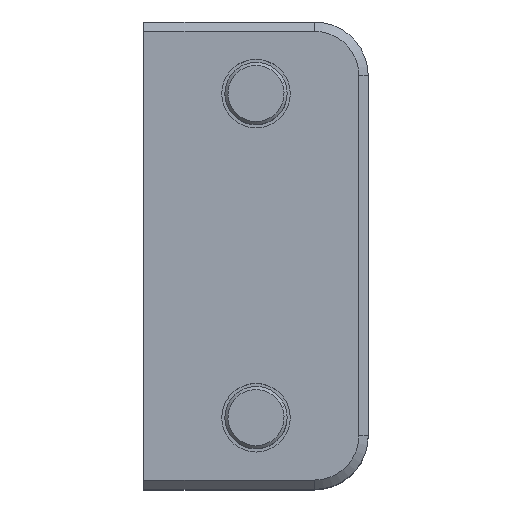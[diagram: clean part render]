
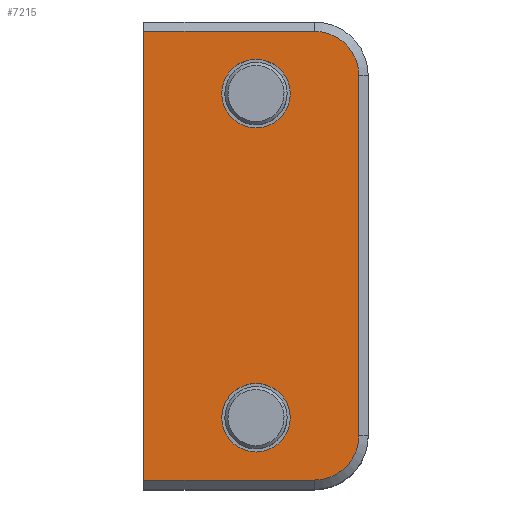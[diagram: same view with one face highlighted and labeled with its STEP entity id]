
A CAD part, top view. The second image highlights one B-rep face of the part: STEP entity #7215.
In plain terms, the highlighted planar face has unit normal (0, 0, 1).
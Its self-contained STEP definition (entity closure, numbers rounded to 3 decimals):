
#100 = CARTESIAN_POINT ( 'NONE',  ( 0., 31.5, 20. ) ) ;
#174 = EDGE_LOOP ( 'NONE', ( #9053, #1426, #10487, #4173, #8545, #5296 ) ) ;
#234 = EDGE_LOOP ( 'NONE', ( #5438, #7120 ) ) ;
#267 = EDGE_CURVE ( 'NONE', #6759, #2711, #2115, .T. ) ;
#456 = FACE_BOUND ( 'NONE', #718, .T. ) ;
#555 = AXIS2_PLACEMENT_3D ( 'NONE', #3972, #4197, #10540 ) ;
#704 = DIRECTION ( 'NONE',  ( 0., 0., -1. ) ) ;
#718 = EDGE_LOOP ( 'NONE', ( #8166, #2763 ) ) ;
#819 = AXIS2_PLACEMENT_3D ( 'NONE', #6323, #7170, #1608 ) ;
#873 = LINE ( 'NONE', #8476, #1244 ) ;
#904 = EDGE_CURVE ( 'NONE', #2252, #5194, #3669, .T. ) ;
#1244 = VECTOR ( 'NONE', #3474, 1000. ) ;
#1400 = DIRECTION ( 'NONE',  ( -1., 0., 0. ) ) ;
#1426 = ORIENTED_EDGE ( 'NONE', *, *, #8239, .T. ) ;
#1608 = DIRECTION ( 'NONE',  ( 0., 1., 0. ) ) ;
#1633 = DIRECTION ( 'NONE',  ( 0., -1., 0. ) ) ;
#1644 = CIRCLE ( 'NONE', #6344, 5.5 ) ;
#1662 = VERTEX_POINT ( 'NONE', #1829 ) ;
#1693 = CARTESIAN_POINT ( 'NONE',  ( 9.4, 28.9, 20. ) ) ;
#1829 = CARTESIAN_POINT ( 'NONE',  ( -18., 36., 20. ) ) ;
#2115 = CIRCLE ( 'NONE', #5670, 5.5 ) ;
#2252 = VERTEX_POINT ( 'NONE', #2740 ) ;
#2412 = VECTOR ( 'NONE', #9555, 1000. ) ;
#2446 = EDGE_CURVE ( 'NONE', #5194, #2252, #8381, .T. ) ;
#2539 = LINE ( 'NONE', #8794, #2412 ) ;
#2547 = CARTESIAN_POINT ( 'NONE',  ( 0., -26., 20. ) ) ;
#2711 = VERTEX_POINT ( 'NONE', #9351 ) ;
#2740 = CARTESIAN_POINT ( 'NONE',  ( 0., 20.5, 20. ) ) ;
#2763 = ORIENTED_EDGE ( 'NONE', *, *, #7724, .T. ) ;
#2955 = VERTEX_POINT ( 'NONE', #7272 ) ;
#2958 = CARTESIAN_POINT ( 'NONE',  ( 9.4, -28.9, 20. ) ) ;
#3004 = DIRECTION ( 'NONE',  ( 0., 0., 1. ) ) ;
#3474 = DIRECTION ( 'NONE',  ( 0., 1., 0. ) ) ;
#3669 = CIRCLE ( 'NONE', #555, 5.5 ) ;
#3694 = CARTESIAN_POINT ( 'NONE',  ( -18., -36., 20. ) ) ;
#3971 = FACE_BOUND ( 'NONE', #234, .T. ) ;
#3972 = CARTESIAN_POINT ( 'NONE',  ( 0., 26., 20. ) ) ;
#4120 = DIRECTION ( 'NONE',  ( -1., 0., 0. ) ) ;
#4173 = ORIENTED_EDGE ( 'NONE', *, *, #8559, .T. ) ;
#4197 = DIRECTION ( 'NONE',  ( 0., 0., -1. ) ) ;
#4324 = CARTESIAN_POINT ( 'NONE',  ( 16.5, -28.9, 20. ) ) ;
#4360 = AXIS2_PLACEMENT_3D ( 'NONE', #1693, #10000, #4120 ) ;
#4784 = DIRECTION ( 'NONE',  ( 0., 1., 0. ) ) ;
#4794 = VECTOR ( 'NONE', #1633, 1000. ) ;
#4860 = VECTOR ( 'NONE', #6564, 1000. ) ;
#5142 = DIRECTION ( 'NONE',  ( 0., 0., -1. ) ) ;
#5194 = VERTEX_POINT ( 'NONE', #100 ) ;
#5226 = VERTEX_POINT ( 'NONE', #5797 ) ;
#5296 = ORIENTED_EDGE ( 'NONE', *, *, #10760, .T. ) ;
#5418 = EDGE_CURVE ( 'NONE', #1662, #6900, #8551, .T. ) ;
#5438 = ORIENTED_EDGE ( 'NONE', *, *, #2446, .T. ) ;
#5498 = DIRECTION ( 'NONE',  ( -1., 0., 0. ) ) ;
#5529 = CARTESIAN_POINT ( 'NONE',  ( 18., -37.5, 20. ) ) ;
#5538 = CARTESIAN_POINT ( 'NONE',  ( 0., -26., 20. ) ) ;
#5670 = AXIS2_PLACEMENT_3D ( 'NONE', #5538, #704, #4784 ) ;
#5797 = CARTESIAN_POINT ( 'NONE',  ( 9.4, -36., 20. ) ) ;
#5834 = EDGE_CURVE ( 'NONE', #5226, #6211, #6066, .T. ) ;
#5895 = DIRECTION ( 'NONE',  ( 0., 1., 0. ) ) ;
#5912 = AXIS2_PLACEMENT_3D ( 'NONE', #2958, #3004, #1400 ) ;
#6066 = CIRCLE ( 'NONE', #5912, 7.1 ) ;
#6211 = VERTEX_POINT ( 'NONE', #4324 ) ;
#6323 = CARTESIAN_POINT ( 'NONE',  ( 0., 26., 20. ) ) ;
#6344 = AXIS2_PLACEMENT_3D ( 'NONE', #2547, #5142, #5895 ) ;
#6414 = CIRCLE ( 'NONE', #4360, 7.1 ) ;
#6564 = DIRECTION ( 'NONE',  ( 1., 0., 0. ) ) ;
#6759 = VERTEX_POINT ( 'NONE', #10043 ) ;
#6900 = VERTEX_POINT ( 'NONE', #3694 ) ;
#7120 = ORIENTED_EDGE ( 'NONE', *, *, #904, .T. ) ;
#7170 = DIRECTION ( 'NONE',  ( 0., 0., -1. ) ) ;
#7215 = ADVANCED_FACE ( 'NONE', ( #3971, #456, #8132 ), #8883, .F. ) ;
#7272 = CARTESIAN_POINT ( 'NONE',  ( 16.5, 28.9, 20. ) ) ;
#7309 = CARTESIAN_POINT ( 'NONE',  ( 9.4, 36., 20. ) ) ;
#7316 = CARTESIAN_POINT ( 'NONE',  ( -18., -37.5, 20. ) ) ;
#7718 = LINE ( 'NONE', #9693, #4860 ) ;
#7724 = EDGE_CURVE ( 'NONE', #2711, #6759, #1644, .T. ) ;
#8132 = FACE_OUTER_BOUND ( 'NONE', #174, .T. ) ;
#8166 = ORIENTED_EDGE ( 'NONE', *, *, #267, .T. ) ;
#8239 = EDGE_CURVE ( 'NONE', #8554, #1662, #2539, .T. ) ;
#8381 = CIRCLE ( 'NONE', #819, 5.5 ) ;
#8476 = CARTESIAN_POINT ( 'NONE',  ( 16.5, -37.5, 20. ) ) ;
#8545 = ORIENTED_EDGE ( 'NONE', *, *, #5834, .T. ) ;
#8551 = LINE ( 'NONE', #7316, #4794 ) ;
#8554 = VERTEX_POINT ( 'NONE', #7309 ) ;
#8559 = EDGE_CURVE ( 'NONE', #6900, #5226, #7718, .T. ) ;
#8723 = AXIS2_PLACEMENT_3D ( 'NONE', #5529, #10542, #5498 ) ;
#8794 = CARTESIAN_POINT ( 'NONE',  ( 18., 36., 20. ) ) ;
#8883 = PLANE ( 'NONE',  #8723 ) ;
#9053 = ORIENTED_EDGE ( 'NONE', *, *, #10669, .T. ) ;
#9351 = CARTESIAN_POINT ( 'NONE',  ( 0., -31.5, 20. ) ) ;
#9555 = DIRECTION ( 'NONE',  ( -1., 0., 0. ) ) ;
#9693 = CARTESIAN_POINT ( 'NONE',  ( 18., -36., 20. ) ) ;
#10000 = DIRECTION ( 'NONE',  ( 0., 0., 1. ) ) ;
#10043 = CARTESIAN_POINT ( 'NONE',  ( 0., -20.5, 20. ) ) ;
#10487 = ORIENTED_EDGE ( 'NONE', *, *, #5418, .T. ) ;
#10540 = DIRECTION ( 'NONE',  ( 0., 1., 0. ) ) ;
#10542 = DIRECTION ( 'NONE',  ( 0., 0., -1. ) ) ;
#10669 = EDGE_CURVE ( 'NONE', #2955, #8554, #6414, .T. ) ;
#10760 = EDGE_CURVE ( 'NONE', #6211, #2955, #873, .T. ) ;
